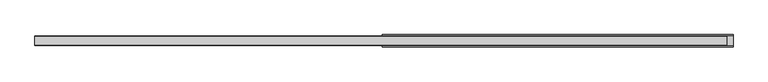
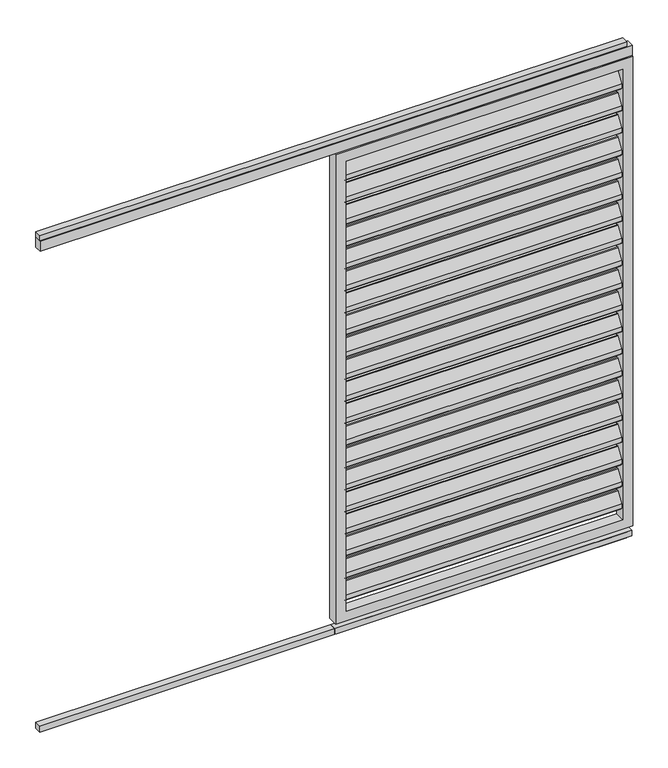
"""IFC4 building model written with IfcOpenShell, lengths in millimetres: proxy geometry, Renson_Algarve_Loggia_Paro_Aluminium : Renson_Algarve_Loggia_Paro_Aluminium."""

from ifc_helpers import new_model, si_unit, point, frame, frame_2d, origin, origin_with_axes, place, context, project, spatial, polyline, circle_curve, trimmed, segment, composite_curve, outline, extrude, source, transform, mapped, element, save


def generic_models_22d4a11b(model_context):
    return source(origin(), model_context, "Body", "SweptSolid", [
        extrude(outline(composite_curve([segment(trimmed(circle_curve(frame_2d((12.6675921, 1892.6587719)), 3.0), [point((10.1515804, 1894.292689))], [point((15.6675921, 1892.6587719))], False, "CARTESIAN"), True, "CONTINUOUS"), segment(polyline([(15.6675921, 1892.6587719), (15.6675921, 1874.2979873)]), True, "CONTINUOUS"), segment(trimmed(circle_curve(frame_2d((12.6675921, 1874.2979873)), 3.0), [point((15.6675921, 1874.2979873))], [point((15.1836038, 1872.6640702))], False, "CARTESIAN"), True, "CONTINUOUS"), segment(polyline([(15.1836038, 1872.6640702), (-8.8163962, 1835.707311)]), True, "CONTINUOUS"), segment(trimmed(circle_curve(frame_2d((-11.3324079, 1837.3412281)), 3.0), [point((-8.8163962, 1835.707311))], [point((-14.3324079, 1837.3412281))], False, "CARTESIAN"), True, "CONTINUOUS"), segment(polyline([(-14.3324079, 1837.3412281), (-14.3324079, 1856.5906532), (10.1515804, 1894.292689)]), True, "CONTINUOUS")], self_intersect=False)), frame((-532.5, 0.0, 0.0), z_axis=(1.0, 0.0, 0.0), x_axis=(0.0, 1.0, 0.0)), (0.0, 0.0, 1.0), 1065.0),
        extrude(outline(composite_curve([segment(trimmed(circle_curve(frame_2d((12.6675921, 1802.6587719)), 3.0), [point((10.1515804, 1804.292689))], [point((15.6675921, 1802.6587719))], False, "CARTESIAN"), True, "CONTINUOUS"), segment(polyline([(15.6675921, 1802.6587719), (15.6675921, 1784.2979873)]), True, "CONTINUOUS"), segment(trimmed(circle_curve(frame_2d((12.6675921, 1784.2979873)), 3.0), [point((15.6675921, 1784.2979873))], [point((15.1836038, 1782.6640702))], False, "CARTESIAN"), True, "CONTINUOUS"), segment(polyline([(15.1836038, 1782.6640702), (-8.8163962, 1745.707311)]), True, "CONTINUOUS"), segment(trimmed(circle_curve(frame_2d((-11.3324079, 1747.3412281)), 3.0), [point((-8.8163962, 1745.707311))], [point((-14.3324079, 1747.3412281))], False, "CARTESIAN"), True, "CONTINUOUS"), segment(polyline([(-14.3324079, 1747.3412281), (-14.3324079, 1766.5906532), (10.1515804, 1804.292689)]), True, "CONTINUOUS")], self_intersect=False)), frame((-532.5, 0.0, 0.0), z_axis=(1.0, 0.0, 0.0), x_axis=(0.0, 1.0, 0.0)), (0.0, 0.0, 1.0), 1065.0),
        extrude(outline(composite_curve([segment(trimmed(circle_curve(frame_2d((12.6675921, 1712.6587719)), 3.0), [point((10.1515804, 1714.292689))], [point((15.6675921, 1712.6587719))], False, "CARTESIAN"), True, "CONTINUOUS"), segment(polyline([(15.6675921, 1712.6587719), (15.6675921, 1694.2979873)]), True, "CONTINUOUS"), segment(trimmed(circle_curve(frame_2d((12.6675921, 1694.2979873)), 3.0), [point((15.6675921, 1694.2979873))], [point((15.1836038, 1692.6640702))], False, "CARTESIAN"), True, "CONTINUOUS"), segment(polyline([(15.1836038, 1692.6640702), (-8.8163962, 1655.707311)]), True, "CONTINUOUS"), segment(trimmed(circle_curve(frame_2d((-11.3324079, 1657.3412281)), 3.0), [point((-8.8163962, 1655.707311))], [point((-14.3324079, 1657.3412281))], False, "CARTESIAN"), True, "CONTINUOUS"), segment(polyline([(-14.3324079, 1657.3412281), (-14.3324079, 1676.5906532), (10.1515804, 1714.292689)]), True, "CONTINUOUS")], self_intersect=False)), frame((-532.5, 0.0, 0.0), z_axis=(1.0, 0.0, 0.0), x_axis=(0.0, 1.0, 0.0)), (0.0, 0.0, 1.0), 1065.0),
        extrude(outline(composite_curve([segment(trimmed(circle_curve(frame_2d((12.6675921, 1622.6587719)), 3.0), [point((10.1515804, 1624.292689))], [point((15.6675921, 1622.6587719))], False, "CARTESIAN"), True, "CONTINUOUS"), segment(polyline([(15.6675921, 1622.6587719), (15.6675921, 1604.2979873)]), True, "CONTINUOUS"), segment(trimmed(circle_curve(frame_2d((12.6675921, 1604.2979873)), 3.0), [point((15.6675921, 1604.2979873))], [point((15.1836038, 1602.6640702))], False, "CARTESIAN"), True, "CONTINUOUS"), segment(polyline([(15.1836038, 1602.6640702), (-8.8163962, 1565.707311)]), True, "CONTINUOUS"), segment(trimmed(circle_curve(frame_2d((-11.3324079, 1567.3412281)), 3.0), [point((-8.8163962, 1565.707311))], [point((-14.3324079, 1567.3412281))], False, "CARTESIAN"), True, "CONTINUOUS"), segment(polyline([(-14.3324079, 1567.3412281), (-14.3324079, 1586.5906532), (10.1515804, 1624.292689)]), True, "CONTINUOUS")], self_intersect=False)), frame((-532.5, 0.0, 0.0), z_axis=(1.0, 0.0, 0.0), x_axis=(0.0, 1.0, 0.0)), (0.0, 0.0, 1.0), 1065.0),
        extrude(outline(composite_curve([segment(trimmed(circle_curve(frame_2d((12.6675921, 1532.6587719)), 3.0), [point((10.1515804, 1534.292689))], [point((15.6675921, 1532.6587719))], False, "CARTESIAN"), True, "CONTINUOUS"), segment(polyline([(15.6675921, 1532.6587719), (15.6675921, 1514.2979873)]), True, "CONTINUOUS"), segment(trimmed(circle_curve(frame_2d((12.6675921, 1514.2979873)), 3.0), [point((15.6675921, 1514.2979873))], [point((15.1836038, 1512.6640702))], False, "CARTESIAN"), True, "CONTINUOUS"), segment(polyline([(15.1836038, 1512.6640702), (-8.8163962, 1475.707311)]), True, "CONTINUOUS"), segment(trimmed(circle_curve(frame_2d((-11.3324079, 1477.3412281)), 3.0), [point((-8.8163962, 1475.707311))], [point((-14.3324079, 1477.3412281))], False, "CARTESIAN"), True, "CONTINUOUS"), segment(polyline([(-14.3324079, 1477.3412281), (-14.3324079, 1496.5906532), (10.1515804, 1534.292689)]), True, "CONTINUOUS")], self_intersect=False)), frame((-532.5, 0.0, 0.0), z_axis=(1.0, 0.0, 0.0), x_axis=(0.0, 1.0, 0.0)), (0.0, 0.0, 1.0), 1065.0),
        extrude(outline(composite_curve([segment(trimmed(circle_curve(frame_2d((12.6675921, 1442.6587719)), 3.0), [point((10.1515804, 1444.292689))], [point((15.6675921, 1442.6587719))], False, "CARTESIAN"), True, "CONTINUOUS"), segment(polyline([(15.6675921, 1442.6587719), (15.6675921, 1424.2979873)]), True, "CONTINUOUS"), segment(trimmed(circle_curve(frame_2d((12.6675921, 1424.2979873)), 3.0), [point((15.6675921, 1424.2979873))], [point((15.1836038, 1422.6640702))], False, "CARTESIAN"), True, "CONTINUOUS"), segment(polyline([(15.1836038, 1422.6640702), (-8.8163962, 1385.707311)]), True, "CONTINUOUS"), segment(trimmed(circle_curve(frame_2d((-11.3324079, 1387.3412281)), 3.0), [point((-8.8163962, 1385.707311))], [point((-14.3324079, 1387.3412281))], False, "CARTESIAN"), True, "CONTINUOUS"), segment(polyline([(-14.3324079, 1387.3412281), (-14.3324079, 1406.5906532), (10.1515804, 1444.292689)]), True, "CONTINUOUS")], self_intersect=False)), frame((-532.5, 0.0, 0.0), z_axis=(1.0, 0.0, 0.0), x_axis=(0.0, 1.0, 0.0)), (0.0, 0.0, 1.0), 1065.0),
        extrude(outline(composite_curve([segment(trimmed(circle_curve(frame_2d((12.6675921, 1352.6587719)), 3.0), [point((10.1515804, 1354.292689))], [point((15.6675921, 1352.6587719))], False, "CARTESIAN"), True, "CONTINUOUS"), segment(polyline([(15.6675921, 1352.6587719), (15.6675921, 1334.2979873)]), True, "CONTINUOUS"), segment(trimmed(circle_curve(frame_2d((12.6675921, 1334.2979873)), 3.0), [point((15.6675921, 1334.2979873))], [point((15.1836038, 1332.6640702))], False, "CARTESIAN"), True, "CONTINUOUS"), segment(polyline([(15.1836038, 1332.6640702), (-8.8163962, 1295.707311)]), True, "CONTINUOUS"), segment(trimmed(circle_curve(frame_2d((-11.3324079, 1297.3412281)), 3.0), [point((-8.8163962, 1295.707311))], [point((-14.3324079, 1297.3412281))], False, "CARTESIAN"), True, "CONTINUOUS"), segment(polyline([(-14.3324079, 1297.3412281), (-14.3324079, 1316.5906532), (10.1515804, 1354.292689)]), True, "CONTINUOUS")], self_intersect=False)), frame((-532.5, 0.0, 0.0), z_axis=(1.0, 0.0, 0.0), x_axis=(0.0, 1.0, 0.0)), (0.0, 0.0, 1.0), 1065.0),
        extrude(outline(composite_curve([segment(trimmed(circle_curve(frame_2d((12.6675921, 1262.6587719)), 3.0), [point((10.1515804, 1264.292689))], [point((15.6675921, 1262.6587719))], False, "CARTESIAN"), True, "CONTINUOUS"), segment(polyline([(15.6675921, 1262.6587719), (15.6675921, 1244.2979873)]), True, "CONTINUOUS"), segment(trimmed(circle_curve(frame_2d((12.6675921, 1244.2979873)), 3.0), [point((15.6675921, 1244.2979873))], [point((15.1836038, 1242.6640702))], False, "CARTESIAN"), True, "CONTINUOUS"), segment(polyline([(15.1836038, 1242.6640702), (-8.8163962, 1205.707311)]), True, "CONTINUOUS"), segment(trimmed(circle_curve(frame_2d((-11.3324079, 1207.3412281)), 3.0), [point((-8.8163962, 1205.707311))], [point((-14.3324079, 1207.3412281))], False, "CARTESIAN"), True, "CONTINUOUS"), segment(polyline([(-14.3324079, 1207.3412281), (-14.3324079, 1226.5906532), (10.1515804, 1264.292689)]), True, "CONTINUOUS")], self_intersect=False)), frame((-532.5, 0.0, 0.0), z_axis=(1.0, 0.0, 0.0), x_axis=(0.0, 1.0, 0.0)), (0.0, 0.0, 1.0), 1065.0),
        extrude(outline(composite_curve([segment(trimmed(circle_curve(frame_2d((12.6675921, 1172.6587719)), 3.0), [point((10.1515804, 1174.292689))], [point((15.6675921, 1172.6587719))], False, "CARTESIAN"), True, "CONTINUOUS"), segment(polyline([(15.6675921, 1172.6587719), (15.6675921, 1154.2979873)]), True, "CONTINUOUS"), segment(trimmed(circle_curve(frame_2d((12.6675921, 1154.2979873)), 3.0), [point((15.6675921, 1154.2979873))], [point((15.1836038, 1152.6640702))], False, "CARTESIAN"), True, "CONTINUOUS"), segment(polyline([(15.1836038, 1152.6640702), (-8.8163962, 1115.707311)]), True, "CONTINUOUS"), segment(trimmed(circle_curve(frame_2d((-11.3324079, 1117.3412281)), 3.0), [point((-8.8163962, 1115.707311))], [point((-14.3324079, 1117.3412281))], False, "CARTESIAN"), True, "CONTINUOUS"), segment(polyline([(-14.3324079, 1117.3412281), (-14.3324079, 1136.5906532), (10.1515804, 1174.292689)]), True, "CONTINUOUS")], self_intersect=False)), frame((-532.5, 0.0, 0.0), z_axis=(1.0, 0.0, 0.0), x_axis=(0.0, 1.0, 0.0)), (0.0, 0.0, 1.0), 1065.0),
        extrude(outline(composite_curve([segment(trimmed(circle_curve(frame_2d((12.6675921, 1082.6587719)), 3.0), [point((10.1515804, 1084.292689))], [point((15.6675921, 1082.6587719))], False, "CARTESIAN"), True, "CONTINUOUS"), segment(polyline([(15.6675921, 1082.6587719), (15.6675921, 1064.2979873)]), True, "CONTINUOUS"), segment(trimmed(circle_curve(frame_2d((12.6675921, 1064.2979873)), 3.0), [point((15.6675921, 1064.2979873))], [point((15.1836038, 1062.6640702))], False, "CARTESIAN"), True, "CONTINUOUS"), segment(polyline([(15.1836038, 1062.6640702), (-8.8163962, 1025.707311)]), True, "CONTINUOUS"), segment(trimmed(circle_curve(frame_2d((-11.3324079, 1027.3412281)), 3.0), [point((-8.8163962, 1025.707311))], [point((-14.3324079, 1027.3412281))], False, "CARTESIAN"), True, "CONTINUOUS"), segment(polyline([(-14.3324079, 1027.3412281), (-14.3324079, 1046.5906532), (10.1515804, 1084.292689)]), True, "CONTINUOUS")], self_intersect=False)), frame((-532.5, 0.0, 0.0), z_axis=(1.0, 0.0, 0.0), x_axis=(0.0, 1.0, 0.0)), (0.0, 0.0, 1.0), 1065.0),
        extrude(outline(composite_curve([segment(trimmed(circle_curve(frame_2d((12.6675921, 992.6587719)), 3.0), [point((10.1515804, 994.292689))], [point((15.6675921, 992.6587719))], False, "CARTESIAN"), True, "CONTINUOUS"), segment(polyline([(15.6675921, 992.6587719), (15.6675921, 974.2979873)]), True, "CONTINUOUS"), segment(trimmed(circle_curve(frame_2d((12.6675921, 974.2979873)), 3.0), [point((15.6675921, 974.2979873))], [point((15.1836038, 972.6640702))], False, "CARTESIAN"), True, "CONTINUOUS"), segment(polyline([(15.1836038, 972.6640702), (-8.8163962, 935.707311)]), True, "CONTINUOUS"), segment(trimmed(circle_curve(frame_2d((-11.3324079, 937.3412281)), 3.0), [point((-8.8163962, 935.707311))], [point((-14.3324079, 937.3412281))], False, "CARTESIAN"), True, "CONTINUOUS"), segment(polyline([(-14.3324079, 937.3412281), (-14.3324079, 956.5906532), (10.1515804, 994.292689)]), True, "CONTINUOUS")], self_intersect=False)), frame((-532.5, 0.0, 0.0), z_axis=(1.0, 0.0, 0.0), x_axis=(0.0, 1.0, 0.0)), (0.0, 0.0, 1.0), 1065.0),
        extrude(outline(composite_curve([segment(trimmed(circle_curve(frame_2d((12.6675921, 902.6587719)), 3.0), [point((10.1515804, 904.292689))], [point((15.6675921, 902.6587719))], False, "CARTESIAN"), True, "CONTINUOUS"), segment(polyline([(15.6675921, 902.6587719), (15.6675921, 884.2979873)]), True, "CONTINUOUS"), segment(trimmed(circle_curve(frame_2d((12.6675921, 884.2979873)), 3.0), [point((15.6675921, 884.2979873))], [point((15.1836038, 882.6640702))], False, "CARTESIAN"), True, "CONTINUOUS"), segment(polyline([(15.1836038, 882.6640702), (-8.8163962, 845.707311)]), True, "CONTINUOUS"), segment(trimmed(circle_curve(frame_2d((-11.3324079, 847.3412281)), 3.0), [point((-8.8163962, 845.707311))], [point((-14.3324079, 847.3412281))], False, "CARTESIAN"), True, "CONTINUOUS"), segment(polyline([(-14.3324079, 847.3412281), (-14.3324079, 866.5906532), (10.1515804, 904.292689)]), True, "CONTINUOUS")], self_intersect=False)), frame((-532.5, 0.0, 0.0), z_axis=(1.0, 0.0, 0.0), x_axis=(0.0, 1.0, 0.0)), (0.0, 0.0, 1.0), 1065.0),
        extrude(outline(composite_curve([segment(trimmed(circle_curve(frame_2d((12.6675921, 812.6587719)), 3.0), [point((10.1515804, 814.292689))], [point((15.6675921, 812.6587719))], False, "CARTESIAN"), True, "CONTINUOUS"), segment(polyline([(15.6675921, 812.6587719), (15.6675921, 794.2979873)]), True, "CONTINUOUS"), segment(trimmed(circle_curve(frame_2d((12.6675921, 794.2979873)), 3.0), [point((15.6675921, 794.2979873))], [point((15.1836038, 792.6640702))], False, "CARTESIAN"), True, "CONTINUOUS"), segment(polyline([(15.1836038, 792.6640702), (-8.8163962, 755.707311)]), True, "CONTINUOUS"), segment(trimmed(circle_curve(frame_2d((-11.3324079, 757.3412281)), 3.0), [point((-8.8163962, 755.707311))], [point((-14.3324079, 757.3412281))], False, "CARTESIAN"), True, "CONTINUOUS"), segment(polyline([(-14.3324079, 757.3412281), (-14.3324079, 776.5906532), (10.1515804, 814.292689)]), True, "CONTINUOUS")], self_intersect=False)), frame((-532.5, 0.0, 0.0), z_axis=(1.0, 0.0, 0.0), x_axis=(0.0, 1.0, 0.0)), (0.0, 0.0, 1.0), 1065.0),
        extrude(outline(composite_curve([segment(trimmed(circle_curve(frame_2d((12.6675921, 722.6587719)), 3.0), [point((10.1515804, 724.292689))], [point((15.6675921, 722.6587719))], False, "CARTESIAN"), True, "CONTINUOUS"), segment(polyline([(15.6675921, 722.6587719), (15.6675921, 704.2979873)]), True, "CONTINUOUS"), segment(trimmed(circle_curve(frame_2d((12.6675921, 704.2979873)), 3.0), [point((15.6675921, 704.2979873))], [point((15.1836038, 702.6640702))], False, "CARTESIAN"), True, "CONTINUOUS"), segment(polyline([(15.1836038, 702.6640702), (-8.8163962, 665.707311)]), True, "CONTINUOUS"), segment(trimmed(circle_curve(frame_2d((-11.3324079, 667.3412281)), 3.0), [point((-8.8163962, 665.707311))], [point((-14.3324079, 667.3412281))], False, "CARTESIAN"), True, "CONTINUOUS"), segment(polyline([(-14.3324079, 667.3412281), (-14.3324079, 686.5906532), (10.1515804, 724.292689)]), True, "CONTINUOUS")], self_intersect=False)), frame((-532.5, 0.0, 0.0), z_axis=(1.0, 0.0, 0.0), x_axis=(0.0, 1.0, 0.0)), (0.0, 0.0, 1.0), 1065.0),
        extrude(outline(composite_curve([segment(trimmed(circle_curve(frame_2d((12.6675921, 632.6587719)), 3.0), [point((10.1515804, 634.292689))], [point((15.6675921, 632.6587719))], False, "CARTESIAN"), True, "CONTINUOUS"), segment(polyline([(15.6675921, 632.6587719), (15.6675921, 614.2979873)]), True, "CONTINUOUS"), segment(trimmed(circle_curve(frame_2d((12.6675921, 614.2979873)), 3.0), [point((15.6675921, 614.2979873))], [point((15.1836038, 612.6640702))], False, "CARTESIAN"), True, "CONTINUOUS"), segment(polyline([(15.1836038, 612.6640702), (-8.8163962, 575.707311)]), True, "CONTINUOUS"), segment(trimmed(circle_curve(frame_2d((-11.3324079, 577.3412281)), 3.0), [point((-8.8163962, 575.707311))], [point((-14.3324079, 577.3412281))], False, "CARTESIAN"), True, "CONTINUOUS"), segment(polyline([(-14.3324079, 577.3412281), (-14.3324079, 596.5906532), (10.1515804, 634.292689)]), True, "CONTINUOUS")], self_intersect=False)), frame((-532.5, 0.0, 0.0), z_axis=(1.0, 0.0, 0.0), x_axis=(0.0, 1.0, 0.0)), (0.0, 0.0, 1.0), 1065.0),
        extrude(outline(composite_curve([segment(trimmed(circle_curve(frame_2d((12.6675921, 542.6587719)), 3.0), [point((10.1515804, 544.292689))], [point((15.6675921, 542.6587719))], False, "CARTESIAN"), True, "CONTINUOUS"), segment(polyline([(15.6675921, 542.6587719), (15.6675921, 524.2979873)]), True, "CONTINUOUS"), segment(trimmed(circle_curve(frame_2d((12.6675921, 524.2979873)), 3.0), [point((15.6675921, 524.2979873))], [point((15.1836038, 522.6640702))], False, "CARTESIAN"), True, "CONTINUOUS"), segment(polyline([(15.1836038, 522.6640702), (-8.8163962, 485.707311)]), True, "CONTINUOUS"), segment(trimmed(circle_curve(frame_2d((-11.3324079, 487.3412281)), 3.0), [point((-8.8163962, 485.707311))], [point((-14.3324079, 487.3412281))], False, "CARTESIAN"), True, "CONTINUOUS"), segment(polyline([(-14.3324079, 487.3412281), (-14.3324079, 506.5906532), (10.1515804, 544.292689)]), True, "CONTINUOUS")], self_intersect=False)), frame((-532.5, 0.0, 0.0), z_axis=(1.0, 0.0, 0.0), x_axis=(0.0, 1.0, 0.0)), (0.0, 0.0, 1.0), 1065.0),
        extrude(outline(composite_curve([segment(trimmed(circle_curve(frame_2d((12.6675921, 452.6587719)), 3.0), [point((10.1515804, 454.292689))], [point((15.6675921, 452.6587719))], False, "CARTESIAN"), True, "CONTINUOUS"), segment(polyline([(15.6675921, 452.6587719), (15.6675921, 434.2979873)]), True, "CONTINUOUS"), segment(trimmed(circle_curve(frame_2d((12.6675921, 434.2979873)), 3.0), [point((15.6675921, 434.2979873))], [point((15.1836038, 432.6640702))], False, "CARTESIAN"), True, "CONTINUOUS"), segment(polyline([(15.1836038, 432.6640702), (-8.8163962, 395.707311)]), True, "CONTINUOUS"), segment(trimmed(circle_curve(frame_2d((-11.3324079, 397.3412281)), 3.0), [point((-8.8163962, 395.707311))], [point((-14.3324079, 397.3412281))], False, "CARTESIAN"), True, "CONTINUOUS"), segment(polyline([(-14.3324079, 397.3412281), (-14.3324079, 416.5906532), (10.1515804, 454.292689)]), True, "CONTINUOUS")], self_intersect=False)), frame((-532.5, 0.0, 0.0), z_axis=(1.0, 0.0, 0.0), x_axis=(0.0, 1.0, 0.0)), (0.0, 0.0, 1.0), 1065.0),
        extrude(outline(composite_curve([segment(trimmed(circle_curve(frame_2d((12.6675921, 362.6587719)), 3.0), [point((10.1515804, 364.292689))], [point((15.6675921, 362.6587719))], False, "CARTESIAN"), True, "CONTINUOUS"), segment(polyline([(15.6675921, 362.6587719), (15.6675921, 344.2979873)]), True, "CONTINUOUS"), segment(trimmed(circle_curve(frame_2d((12.6675921, 344.2979873)), 3.0), [point((15.6675921, 344.2979873))], [point((15.1836038, 342.6640702))], False, "CARTESIAN"), True, "CONTINUOUS"), segment(polyline([(15.1836038, 342.6640702), (-8.8163962, 305.707311)]), True, "CONTINUOUS"), segment(trimmed(circle_curve(frame_2d((-11.3324079, 307.3412281)), 3.0), [point((-8.8163962, 305.707311))], [point((-14.3324079, 307.3412281))], False, "CARTESIAN"), True, "CONTINUOUS"), segment(polyline([(-14.3324079, 307.3412281), (-14.3324079, 326.5906532), (10.1515804, 364.292689)]), True, "CONTINUOUS")], self_intersect=False)), frame((-532.5, 0.0, 0.0), z_axis=(1.0, 0.0, 0.0), x_axis=(0.0, 1.0, 0.0)), (0.0, 0.0, 1.0), 1065.0),
        extrude(outline(composite_curve([segment(trimmed(circle_curve(frame_2d((12.6675921, 272.6587719)), 3.0), [point((10.1515804, 274.292689))], [point((15.6675921, 272.6587719))], False, "CARTESIAN"), True, "CONTINUOUS"), segment(polyline([(15.6675921, 272.6587719), (15.6675921, 254.2979873)]), True, "CONTINUOUS"), segment(trimmed(circle_curve(frame_2d((12.6675921, 254.2979873)), 3.0), [point((15.6675921, 254.2979873))], [point((15.1836038, 252.6640702))], False, "CARTESIAN"), True, "CONTINUOUS"), segment(polyline([(15.1836038, 252.6640702), (-8.8163962, 215.707311)]), True, "CONTINUOUS"), segment(trimmed(circle_curve(frame_2d((-11.3324079, 217.3412281)), 3.0), [point((-8.8163962, 215.707311))], [point((-14.3324079, 217.3412281))], False, "CARTESIAN"), True, "CONTINUOUS"), segment(polyline([(-14.3324079, 217.3412281), (-14.3324079, 236.5906532), (10.1515804, 274.292689)]), True, "CONTINUOUS")], self_intersect=False)), frame((-532.5, 0.0, 0.0), z_axis=(1.0, 0.0, 0.0), x_axis=(0.0, 1.0, 0.0)), (0.0, 0.0, 1.0), 1065.0),
        extrude(outline(composite_curve([segment(trimmed(circle_curve(frame_2d((12.6675921, 182.6587719)), 3.0), [point((10.1515804, 184.292689))], [point((15.6675921, 182.6587719))], False, "CARTESIAN"), True, "CONTINUOUS"), segment(polyline([(15.6675921, 182.6587719), (15.6675921, 164.2979873)]), True, "CONTINUOUS"), segment(trimmed(circle_curve(frame_2d((12.6675921, 164.2979873)), 3.0), [point((15.6675921, 164.2979873))], [point((15.1836038, 162.6640702))], False, "CARTESIAN"), True, "CONTINUOUS"), segment(polyline([(15.1836038, 162.6640702), (-8.8163962, 125.707311)]), True, "CONTINUOUS"), segment(trimmed(circle_curve(frame_2d((-11.3324079, 127.3412281)), 3.0), [point((-8.8163962, 125.707311))], [point((-14.3324079, 127.3412281))], False, "CARTESIAN"), True, "CONTINUOUS"), segment(polyline([(-14.3324079, 127.3412281), (-14.3324079, 146.5906532), (10.1515804, 184.292689)]), True, "CONTINUOUS")], self_intersect=False)), frame((-532.5, 0.0, 0.0), z_axis=(1.0, 0.0, 0.0), x_axis=(0.0, 1.0, 0.0)), (0.0, 0.0, 1.0), 1065.0),
        extrude(outline(polyline([(552.5, -13.0), (-1707.5, -13.0), (-1707.5, 14.0), (552.5, 14.0), (552.5, -13.0)])), frame((0.0, 0.0, 2000.0), z_axis=(0.0, 0.0, 1.0), x_axis=(1.0, 0.0, 0.0)), (0.0, 0.0, 1.0), 20.0),
        extrude(outline(polyline([(572.5, 15.0), (572.5, -15.0), (-1707.5, -15.0), (-1707.5, 15.0), (572.5, 15.0)])), frame((0.0, 0.0, 1957.7138321), z_axis=(0.0, 0.0, 1.0), x_axis=(1.0, 0.0, 0.0)), (0.0, 0.0, 1.0), 42.2861679),
        extrude(outline(polyline([(552.5, 15.0), (552.5, -15.0), (-572.5, -15.0), (-572.5, 15.0), (552.5, 15.0)])), frame((0.0, 0.0, 1957.7138321), z_axis=(0.0, 0.0, 1.0), x_axis=(1.0, 0.0, 0.0)), (0.0, 0.0, 1.0), 42.2861679),
        extrude(outline(polyline([(572.5, -13.0), (-1707.5, -13.0), (-1707.5, 14.0), (572.5, 14.0), (572.5, -13.0)])), origin_with_axes(), (0.0, 0.0, 1.0), 23.0),
        extrude(outline(polyline([(552.5, -13.0), (-572.5, -13.0), (-572.5, 14.0), (552.5, 14.0), (552.5, -13.0)])), origin_with_axes(), (0.0, 0.0, 1.0), 23.0),
        extrude(outline(polyline([(1957.7138321, -572.5), (45.0, -572.5), (45.0, 572.5), (1957.7138321, 572.5), (1957.7138321, -572.5)]), holes=[polyline([(1917.7138321, 532.5), (85.0, 532.5), (85.0, -532.5), (1917.7138321, -532.5), (1917.7138321, 532.5)])]), frame((0.0, -20.0, 0.0), z_axis=(0.0, 1.0, 0.0), x_axis=(0.0, 0.0, 1.0)), (0.0, 0.0, 1.0), 40.0),
    ])


if __name__ == "__main__":
    model = new_model("IFC4")
    model_context = context("Model", 3, world=origin())
    ifc_project = project(units=[si_unit("LENGTHUNIT", "METRE", prefix="MILLI")], contexts=[model_context])
    site = spatial("IfcSite", under=ifc_project)
    building = spatial("IfcBuilding", under=site)
    placement = place(None, origin())
    generic_models_shape = generic_models_22d4a11b(model_context)
    element("IfcBuildingElementProxy", 1, Name="Renson_Algarve_Loggia_Paro_Aluminium : Renson_Algarve_Loggia_Paro_Aluminium", ObjectType="Renson_Algarve_Loggia_Paro_Aluminium : Renson_Algarve_Loggia_Paro_Aluminium", at=placement, inside=building, context=model_context, shape_type="MappedRepresentation", body=[
        mapped(generic_models_shape, transform((0.0, 0.0, 0.0), x_axis=(1.0, 0.0, 0.0), y_axis=(0.0, 1.0, 0.0), z_axis=(0.0, 0.0, 1.0))),
    ])
    save(model, "model.ifc")
